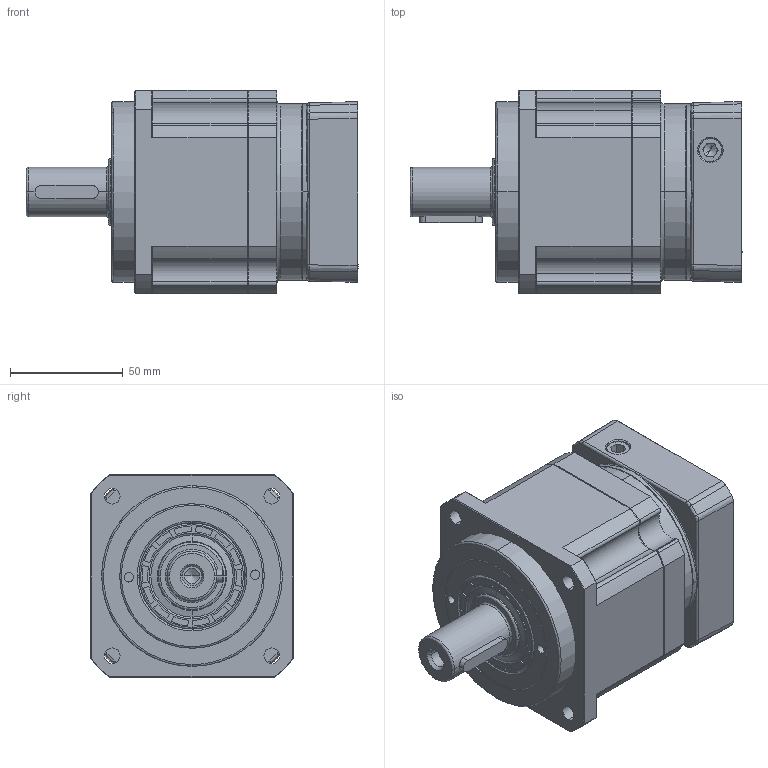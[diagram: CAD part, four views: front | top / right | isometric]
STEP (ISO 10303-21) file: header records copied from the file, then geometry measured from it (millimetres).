
FILE_DESCRIPTION (( 'STEP AP214' ), '1' );
FILE_NAME ('FAB090D-L1-19-70-90-M6.STEP', '2021-04-24T10:20:55', ( '微软用户' ), ( '微软中国' ), 'SwSTEP 2.0', 'SolidWorks 2014', '' );
FILE_SCHEMA (( 'AUTOMOTIVE_DESIGN' ));
Length unit declared in the file: millimetre
Products named in the file (32): 蚐猾30476; FAB090D-L1-19-70-90-M6; M5-12樓粟菜; 输入法兰PAB090D-70-90-M6; hex socket set screws with cone point gb_GB_FASTENER_SCREWS_HSCP M12X12-N; 输入轴PAB090D-19; 输入轴锁紧环 23-52-14; 隅弇覃淕杶PAB090D; A倰す瑩 6-28; 怀堤俴陎殤PAB090D-22; 输出内齿圈壳体PAB090D; 输入端壳体PAB090D
Assembly tree (20 placements, depth 2):
  蚐猾30476
  FAB090D-L1-19-70-90-M6
    蚐猾30476
    输入端壳体PAB090D
    输出内齿圈壳体PAB090D
    怀堤俴陎殤PAB090D-22
    A倰す瑩 6-28
    隅弇覃淕杶PAB090D
    输入轴锁紧环 23-52-14
    输入轴PAB090D-19
    hex socket set screws with cone point gb_GB_FASTENER_SCREWS_HSCP M12X12-N
    M5-12樓粟菜  x10
    输入法兰PAB090D-70-90-M6
  M5-12樓粟菜
  M5-12樓粟菜
  M5-12樓粟菜
Bounding box: 147 x 90 x 90 mm (x, y, z)
Volume: 648971 mm3; surface area: 123507.9 mm2
Topology: 10 solids, 30 shells, 1075 faces, 2650 edges, 1649 vertices
Faces by surface type: cylinder 328, plane 320, cone 225, bspline 194, torus 8
Entity records: 34239 total; most frequent: CARTESIAN_POINT 15017, ORIENTED_EDGE 4025, DIRECTION 3679, EDGE_CURVE 2016, AXIS2_PLACEMENT_3D 1493, VERTEX_POINT 1268, EDGE_LOOP 917, FACE_OUTER_BOUND 823
